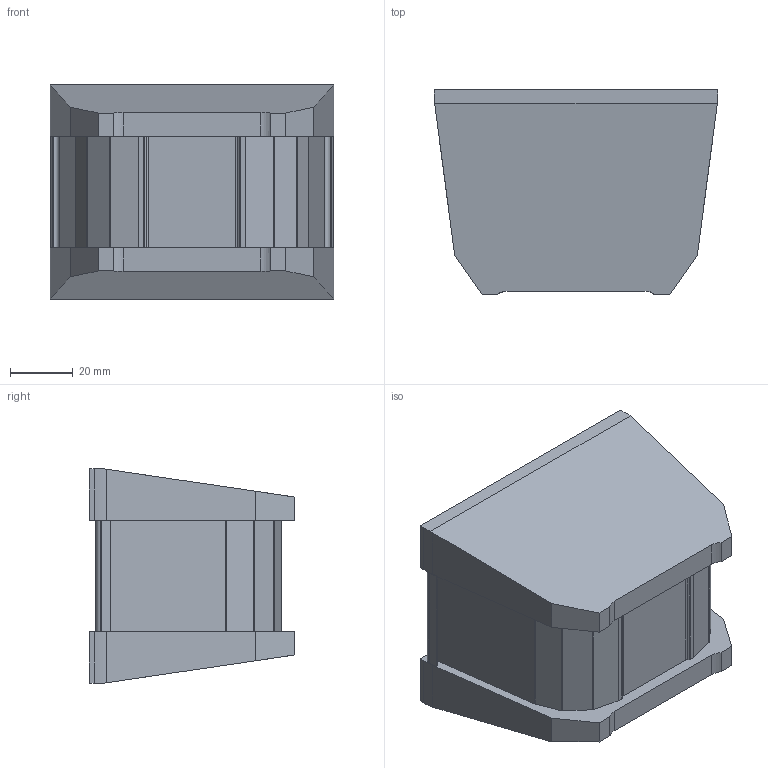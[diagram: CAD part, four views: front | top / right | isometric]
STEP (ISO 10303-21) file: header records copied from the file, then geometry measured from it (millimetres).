
FILE_DESCRIPTION (( 'STEP AP214' ), '1' );
FILE_NAME ('Besteckschale NL 67 L68,5.step', '2010-09-21T13:13:30', ( 'grass' ), ( '' ), 'SwSTEP 2.0', 'SolidWorks 2010', '' );
FILE_SCHEMA (( 'AUTOMOTIVE_DESIGN' ));
Length unit declared in the file: millimetre
Products named in the file (1): Besteckschale NL 67 L68,5
Bounding box: 90.5 x 65.5 x 68.5 mm (x, y, z)
Volume: 51218.1 mm3; surface area: 42651.7 mm2
Topology: 1 solids, 1 shells, 112 faces, 324 edges, 216 vertices
Faces by surface type: plane 80, cylinder 32
Entity records: 3702 total; most frequent: CARTESIAN_POINT 677, ORIENTED_EDGE 648, DIRECTION 602, EDGE_CURVE 324, VECTOR 256, LINE 256, VERTEX_POINT 216, AXIS2_PLACEMENT_3D 173
